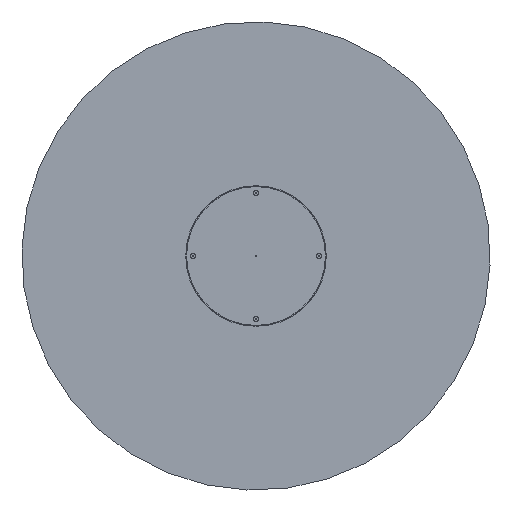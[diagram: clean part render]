
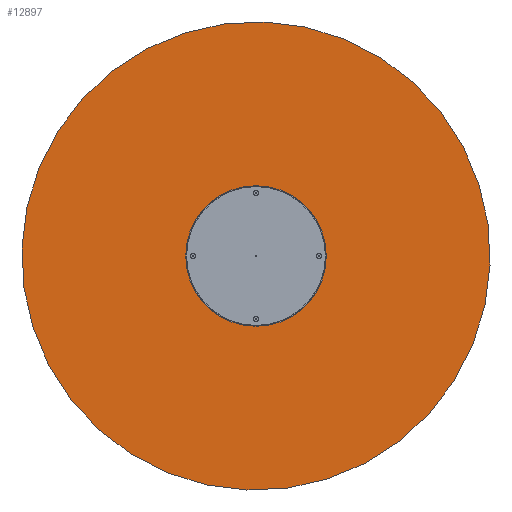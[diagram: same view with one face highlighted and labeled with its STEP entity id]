
A CAD part, front view. The second image highlights one B-rep face of the part: STEP entity #12897.
In plain terms, the highlighted planar face has unit normal (0, -1, 0).
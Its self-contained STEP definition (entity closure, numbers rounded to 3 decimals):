
#39 = AXIS2_PLACEMENT_3D ( 'NONE', #6521, #15420, #3636 ) ;
#89 = DIRECTION ( 'NONE',  ( 0., -1., 0. ) ) ;
#414 = VERTEX_POINT ( 'NONE', #2117 ) ;
#1145 = ORIENTED_EDGE ( 'NONE', *, *, #3286, .T. ) ;
#1421 = CARTESIAN_POINT ( 'NONE',  ( 0., 0., 800. ) ) ;
#1458 = CARTESIAN_POINT ( 'NONE',  ( 0., 0., 0. ) ) ;
#2081 = CIRCLE ( 'NONE', #14808, 800. ) ;
#2117 = CARTESIAN_POINT ( 'NONE',  ( 0., 0., -800. ) ) ;
#3286 = EDGE_CURVE ( 'NONE', #414, #16254, #2081, .T. ) ;
#3636 = DIRECTION ( 'NONE',  ( 0., 0., -1. ) ) ;
#5146 = EDGE_LOOP ( 'NONE', ( #1145, #6704 ) ) ;
#6521 = CARTESIAN_POINT ( 'NONE',  ( 0., 0., 0. ) ) ;
#6704 = ORIENTED_EDGE ( 'NONE', *, *, #7093, .T. ) ;
#7093 = EDGE_CURVE ( 'NONE', #16254, #414, #12137, .T. ) ;
#7691 = DIRECTION ( 'NONE',  ( 0., 0., -1. ) ) ;
#8881 = CARTESIAN_POINT ( 'NONE',  ( 0., 0., 0. ) ) ;
#9423 = AXIS2_PLACEMENT_3D ( 'NONE', #1458, #89, #11782 ) ;
#10160 = FACE_OUTER_BOUND ( 'NONE', #5146, .T. ) ;
#11598 = PLANE ( 'NONE',  #39 ) ;
#11782 = DIRECTION ( 'NONE',  ( 0., 0., -1. ) ) ;
#12137 = CIRCLE ( 'NONE', #9423, 800. ) ;
#12897 = ADVANCED_FACE ( 'NONE', ( #10160 ), #11598, .T. ) ;
#14126 = DIRECTION ( 'NONE',  ( 0., -1., 0. ) ) ;
#14808 = AXIS2_PLACEMENT_3D ( 'NONE', #8881, #14126, #7691 ) ;
#15420 = DIRECTION ( 'NONE',  ( 0., -1., 0. ) ) ;
#16254 = VERTEX_POINT ( 'NONE', #1421 ) ;
